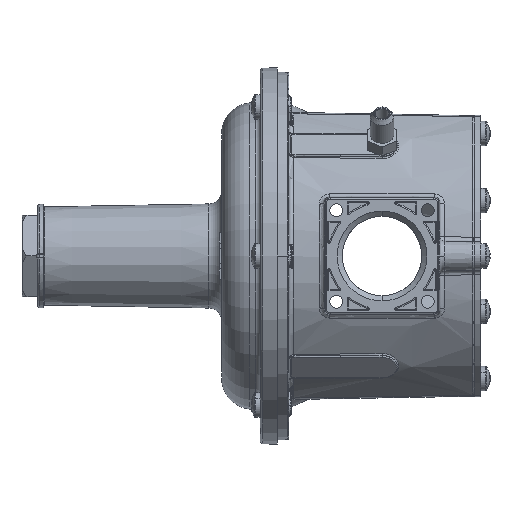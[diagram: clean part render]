
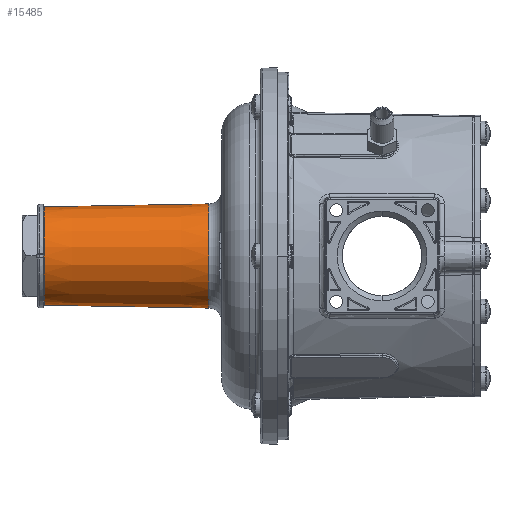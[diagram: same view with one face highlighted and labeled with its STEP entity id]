
A CAD part, left-side view. The second image highlights one B-rep face of the part: STEP entity #15485.
In plain terms, the highlighted conical face has half-angle 1 degrees and reference radius 19 mm.
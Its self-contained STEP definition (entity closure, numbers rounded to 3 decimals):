
#471 = CARTESIAN_POINT ( 'NONE',  ( 0., 162.509, 0. ) ) ;
#472 = DIRECTION ( 'NONE',  ( 0., -1., 0. ) ) ;
#473 = DIRECTION ( 'NONE',  ( 0., 0., -1. ) ) ;
#1125 = CARTESIAN_POINT ( 'NONE',  ( 0., 162.509, 19.009 ) ) ;
#6859 = EDGE_CURVE ( 'NONE', #13298, #38745, #34771, .T. ) ;
#6900 = EDGE_CURVE ( 'NONE', #38937, #38831, #34823, .T. ) ;
#6938 = EDGE_CURVE ( 'NONE', #38831, #38745, #34867, .T. ) ;
#11245 = EDGE_CURVE ( 'NONE', #13298, #38937, #40368, .T. ) ;
#12608 = CARTESIAN_POINT ( 'NONE',  ( 0., 98.913, 20.119 ) ) ;
#12658 = CARTESIAN_POINT ( 'NONE',  ( 0., 98.913, -20.119 ) ) ;
#12717 = CARTESIAN_POINT ( 'NONE',  ( 0., 162.509, -19.009 ) ) ;
#13298 = VERTEX_POINT ( 'NONE', #1125 ) ;
#15076 = EDGE_LOOP ( 'NONE', ( #33686, #33687, #33688, #33689 ) ) ;
#15485 = ADVANCED_FACE ( 'NONE', ( #41049 ), #41058, .T. ) ;
#16904 = DIRECTION ( 'NONE',  ( 0., 0., -1. ) ) ;
#16917 = DIRECTION ( 'NONE',  ( 0., -1., 0. ) ) ;
#16919 = CARTESIAN_POINT ( 'NONE',  ( 0., 163., 0. ) ) ;
#32108 = DIRECTION ( 'NONE',  ( 0., -1., 0.017 ) ) ;
#32121 = CARTESIAN_POINT ( 'NONE',  ( 0., 163., 19. ) ) ;
#32251 = DIRECTION ( 'NONE',  ( 0., -1., -0.017 ) ) ;
#32255 = CARTESIAN_POINT ( 'NONE',  ( 0., 163., -19. ) ) ;
#32379 = CARTESIAN_POINT ( 'NONE',  ( 0., 98.913, 0. ) ) ;
#32380 = DIRECTION ( 'NONE',  ( 0., 1., 0. ) ) ;
#32381 = DIRECTION ( 'NONE',  ( 0., 0., 1. ) ) ;
#33686 = ORIENTED_EDGE ( 'NONE', *, *, #6859, .F. ) ;
#33687 = ORIENTED_EDGE ( 'NONE', *, *, #11245, .T. ) ;
#33688 = ORIENTED_EDGE ( 'NONE', *, *, #6900, .T. ) ;
#33689 = ORIENTED_EDGE ( 'NONE', *, *, #6938, .T. ) ;
#34771 = LINE ( 'NONE', #32121, #34774 ) ;
#34774 = VECTOR ( 'NONE', #32108, 1000. ) ;
#34823 = LINE ( 'NONE', #32255, #34828 ) ;
#34828 = VECTOR ( 'NONE', #32251, 1000. ) ;
#34867 = CIRCLE ( 'NONE', #39646, 20.119 ) ;
#38745 = VERTEX_POINT ( 'NONE', #12608 ) ;
#38831 = VERTEX_POINT ( 'NONE', #12658 ) ;
#38937 = VERTEX_POINT ( 'NONE', #12717 ) ;
#39646 = AXIS2_PLACEMENT_3D ( 'NONE', #32379, #32380, #32381 ) ;
#39878 = AXIS2_PLACEMENT_3D ( 'NONE', #471, #472, #473 ) ;
#40274 = AXIS2_PLACEMENT_3D ( 'NONE', #16919, #16917, #16904 ) ;
#40368 = CIRCLE ( 'NONE', #39878, 19.009 ) ;
#41049 = FACE_OUTER_BOUND ( 'NONE', #15076, .T. ) ;
#41058 = CONICAL_SURFACE ( 'NONE', #40274, 19., 0.017 ) ;
